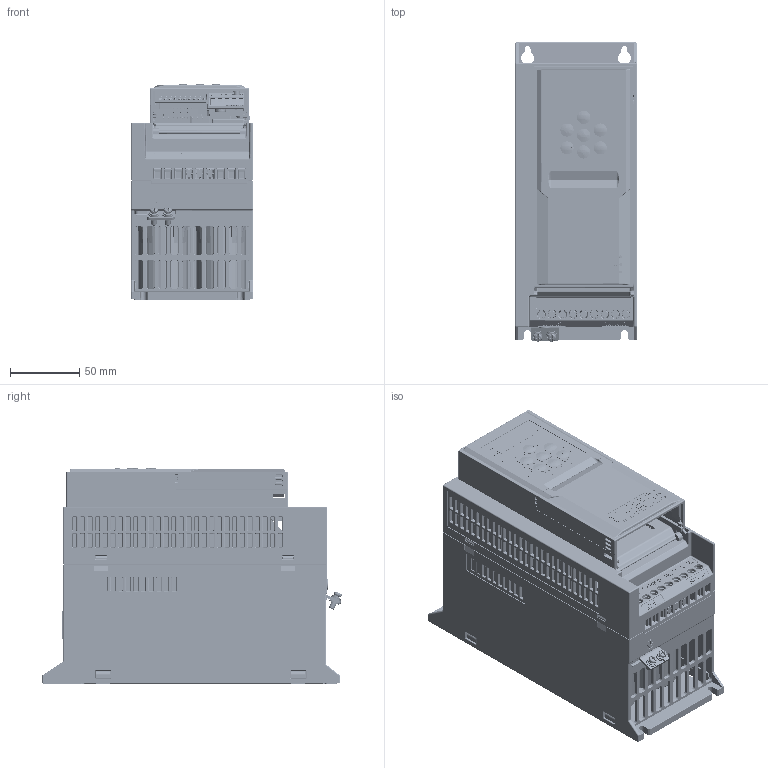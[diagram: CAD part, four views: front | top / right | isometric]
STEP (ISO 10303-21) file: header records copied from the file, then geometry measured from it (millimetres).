
FILE_DESCRIPTION((''),'2;1');
FILE_NAME('AD800-D2-DRIVE_ASM','2025-06-24T15:28:09',('wendong.luo'),(''),'CREO PARAMETRIC BY PTC INC, 2024374','CREO PARAMETRIC BY PTC INC, 2024374','');
FILE_SCHEMA(('CONFIG_CONTROL_DESIGN','GEOMETRIC_VALIDATION_PROPERTIES_MIM'));
Products named in the file (21): D2_MECHANICAL_PART; E0200004-B; E0400127; E0400017; M0202003; D2-PU_ASM; M0104033; E0100084; E0400023; E0400008; E0400009; E0400001; E0400011; E0100084_ASM; M0203006; M0203025; M0203032_00; M0104034; M0203053; CU_NEW_ASM; AD800-D2-DRIVE_ASM
Assembly tree (23 placements, depth 4):
  AD800-D2-DRIVE_ASM
    D2-PU_ASM
      D2_MECHANICAL_PART
      E0200004-B  x2
      E0400127
      E0400017
      M0202003  x2
    CU_NEW_ASM
      M0104033
      E0100084_ASM
        E0100084
        E0400023
        E0400008
        E0400009  x2
        E0400001
        E0400011
      M0203006
      M0203025
      M0203032_00
      M0104034
      M0203053
Bounding box: 88 x 216.34 x 155.65 mm (x, y, z)
Volume: 1508988.4 mm3; surface area: 468373.2 mm2
Topology: 22 solids, 48 shells, 17921 faces, 47206 edges, 30105 vertices
Faces by surface type: plane 8557, cylinder 3478, bspline 2288, extrusion 2212, cone 802, torus 468, sphere 116
Entity records: 794683 total; most frequent: CARTESIAN_POINT 242041, ORIENTED_EDGE 89210, DIRECTION 67115, PRESENTATION_STYLE_ASSIGNMENT 45383, EDGE_CURVE 44613, STYLED_ITEM 43484, CURVE_STYLE 42762, VECTOR 28801
